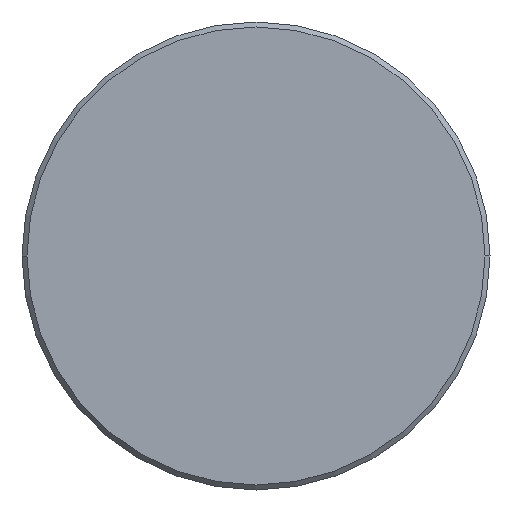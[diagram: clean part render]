
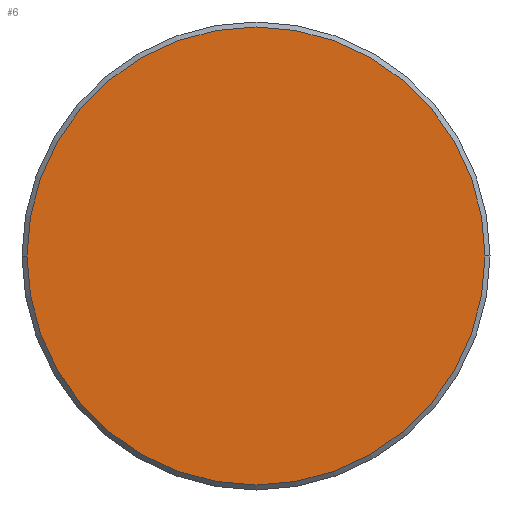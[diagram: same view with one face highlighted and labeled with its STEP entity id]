
A CAD part, left-side view. The second image highlights one B-rep face of the part: STEP entity #6.
In plain terms, the highlighted planar face has unit normal (-1, 0, 0).
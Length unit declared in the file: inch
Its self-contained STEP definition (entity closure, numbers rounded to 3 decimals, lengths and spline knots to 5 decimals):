
#6 = ADVANCED_FACE ( 'NONE', ( #315 ), #312, .T. ) ;
#21 = EDGE_CURVE ( 'NONE', #339, #365, #139, .T. ) ;
#22 = DIRECTION ( 'NONE',  ( 0., -1., 0. ) ) ;
#35 = ORIENTED_EDGE ( 'NONE', *, *, #21, .T. ) ;
#46 = CARTESIAN_POINT ( 'NONE',  ( 0., 0., 0. ) ) ;
#58 = CARTESIAN_POINT ( 'NONE',  ( 0., 0., 0. ) ) ;
#83 = DIRECTION ( 'NONE',  ( 0., -1., 0. ) ) ;
#92 = CIRCLE ( 'NONE', #266, 0.1835 ) ;
#114 = DIRECTION ( 'NONE',  ( -1., 0., 0. ) ) ;
#138 = ORIENTED_EDGE ( 'NONE', *, *, #146, .T. ) ;
#139 = CIRCLE ( 'NONE', #374, 0.1835 ) ;
#146 = EDGE_CURVE ( 'NONE', #365, #339, #92, .T. ) ;
#148 = CARTESIAN_POINT ( 'NONE',  ( 0., 0.1835, 0. ) ) ;
#172 = DIRECTION ( 'NONE',  ( 0., -1., 0. ) ) ;
#220 = CARTESIAN_POINT ( 'NONE',  ( 0., -0.1835, 0. ) ) ;
#246 = DIRECTION ( 'NONE',  ( -1., 0., 0. ) ) ;
#266 = AXIS2_PLACEMENT_3D ( 'NONE', #58, #114, #172 ) ;
#295 = AXIS2_PLACEMENT_3D ( 'NONE', #46, #246, #83 ) ;
#312 = PLANE ( 'NONE',  #295 ) ;
#315 = FACE_OUTER_BOUND ( 'NONE', #332, .T. ) ;
#332 = EDGE_LOOP ( 'NONE', ( #138, #35 ) ) ;
#339 = VERTEX_POINT ( 'NONE', #220 ) ;
#340 = CARTESIAN_POINT ( 'NONE',  ( 0., 0., 0. ) ) ;
#345 = DIRECTION ( 'NONE',  ( -1., 0., 0. ) ) ;
#365 = VERTEX_POINT ( 'NONE', #148 ) ;
#374 = AXIS2_PLACEMENT_3D ( 'NONE', #340, #345, #22 ) ;
